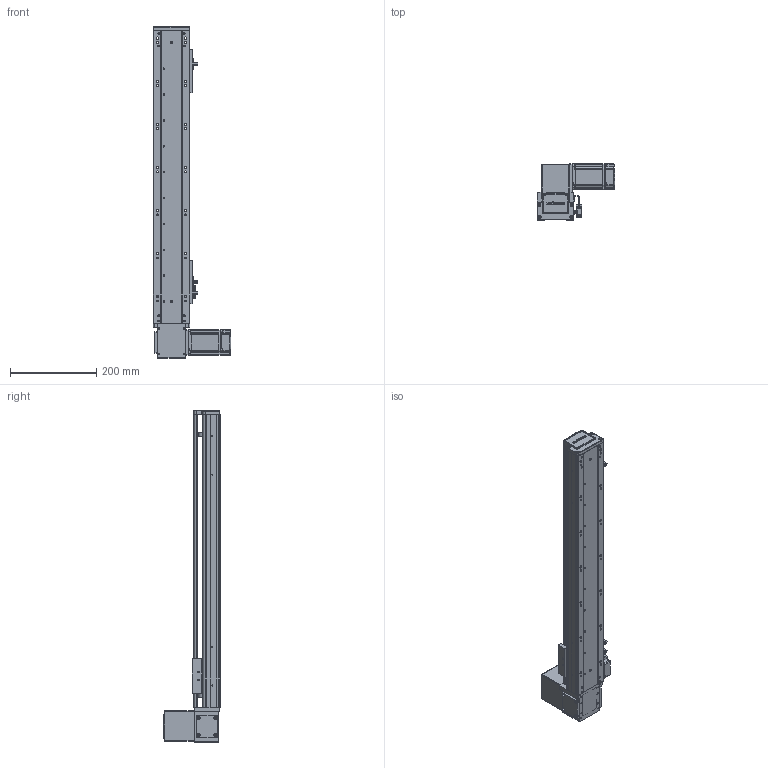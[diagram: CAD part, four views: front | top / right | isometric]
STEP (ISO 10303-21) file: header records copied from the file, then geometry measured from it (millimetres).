
FILE_DESCRIPTION (( 'STEP AP203' ), '1' );
FILE_NAME ('RY80-T-300-UR.SLDASM_500.step', '2021-03-01T02:25:56', ( '盈信电脑' ), ( '东莞市道滘镇水果街19号' ), 'SwSTEP 2.0', 'SolidWorks 2012', '' );
FILE_SCHEMA (( 'CONFIG_CONTROL_DESIGN' ));
Products named in the file (20): RY80-T-M4蹟翐2; RY80-T-300-UR.SLDASM_500; RY80-T萇儂假蚾啣; RY80-T肮祭謫奻殏俋欶; 1; RY80-T-上下折同步轮盖板; RY80-T翋肮祭謫裔啣; RY80-T粣創揤踡輸; RY100-T粣創揤踡裔; 滅袉蝶18-10; RY80-T-翋肮祭謫釱; RY80俋离覜茼え; RY80-T肮祭湍揤輸1; RY80-T肮祭湍揤輸2; 672嫖萇羲壽假蚾釱; RY80-T綴裔啣; 覜茼ん672; RY80-T-300-UR倰第奻裔啣_500; RY80-T-300-UR倰第菁釱_500; RY80-T肮祭謫臏賑輸
Assembly tree (23 placements, depth 2):
  RY80-T-300-UR.SLDASM_500
    RY80-T-300-UR倰第菁釱_500
    RY80-T肮祭謫臏賑輸
    RY80-T-300-UR倰第奻裔啣_500
    RY80-T綴裔啣
    672嫖萇羲壽假蚾釱  x2
    覜茼ん672  x3
    RY80俋离覜茼え
    RY80-T-翋肮祭謫釱
    RY80-T肮祭湍揤輸1
    RY80-T肮祭湍揤輸2
    RY80-T粣創揤踡輸
    滅袉蝶18-10  x2
    RY100-T粣創揤踡裔
    RY80-T翋肮祭謫裔啣
    RY80-T-上下折同步轮盖板
    1
    RY80-T肮祭謫奻殏俋欶
    RY80-T-M4蹟翐2
    RY80-T萇儂假蚾啣
Bounding box: 180 x 130.5 x 770 mm (x, y, z)
Volume: 1541652.2 mm3; surface area: 625154.6 mm2
Topology: 23 solids, 23 shells, 2471 faces, 6803 edges, 4420 vertices
Faces by surface type: plane 1339, cylinder 936, cone 140, bspline 56
Entity records: 78684 total; most frequent: CARTESIAN_POINT 18912, ORIENTED_EDGE 12250, DIRECTION 11546, EDGE_CURVE 6125, VERTEX_POINT 4024, AXIS2_PLACEMENT_3D 3878, VECTOR 3790, LINE 3790
